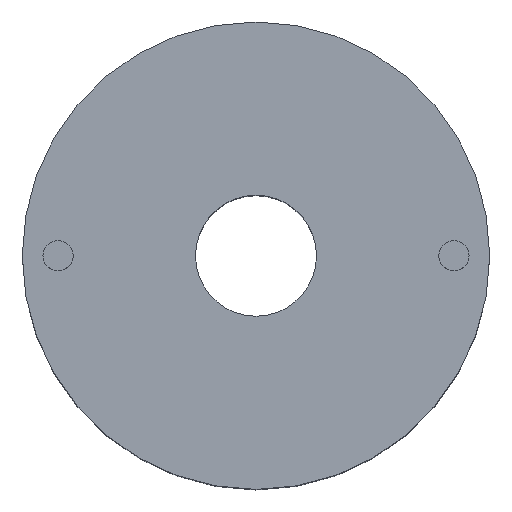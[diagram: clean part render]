
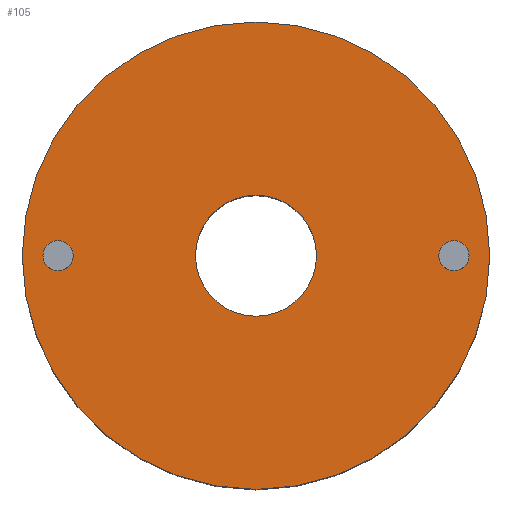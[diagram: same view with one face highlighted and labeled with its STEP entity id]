
A CAD part, top view. The second image highlights one B-rep face of the part: STEP entity #105.
In plain terms, the highlighted planar face has unit normal (0, 0, 1).
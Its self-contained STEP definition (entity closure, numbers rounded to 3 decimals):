
#21 = EDGE_CURVE('',#22,#22,#24,.T.);
#22 = VERTEX_POINT('',#23);
#23 = CARTESIAN_POINT('',(8.5,0.,-9.7));
#24 = SURFACE_CURVE('',#25,(#30,#42),.PCURVE_S1.);
#25 = CIRCLE('',#26,8.5);
#26 = AXIS2_PLACEMENT_3D('',#27,#28,#29);
#27 = CARTESIAN_POINT('',(0.,0.,-9.7));
#28 = DIRECTION('',(0.,0.,1.));
#29 = DIRECTION('',(1.,0.,-0.));
#30 = PCURVE('',#31,#36);
#31 = CYLINDRICAL_SURFACE('',#32,8.5);
#32 = AXIS2_PLACEMENT_3D('',#33,#34,#35);
#33 = CARTESIAN_POINT('',(0.,0.,-21.7));
#34 = DIRECTION('',(0.,0.,1.));
#35 = DIRECTION('',(1.,0.,-0.));
#36 = DEFINITIONAL_REPRESENTATION('',(#37),#41);
#37 = LINE('',#38,#39);
#38 = CARTESIAN_POINT('',(0.,12.));
#39 = VECTOR('',#40,1.);
#40 = DIRECTION('',(1.,0.));
#41 = ( GEOMETRIC_REPRESENTATION_CONTEXT(2) 
PARAMETRIC_REPRESENTATION_CONTEXT() REPRESENTATION_CONTEXT('2D SPACE',''
  ) );
#42 = PCURVE('',#43,#48);
#43 = PLANE('',#44);
#44 = AXIS2_PLACEMENT_3D('',#45,#46,#47);
#45 = CARTESIAN_POINT('',(0.,0.,-9.7));
#46 = DIRECTION('',(0.,0.,1.));
#47 = DIRECTION('',(1.,0.,-0.));
#48 = DEFINITIONAL_REPRESENTATION('',(#49),#53);
#49 = CIRCLE('',#50,8.5);
#50 = AXIS2_PLACEMENT_2D('',#51,#52);
#51 = CARTESIAN_POINT('',(0.,0.));
#52 = DIRECTION('',(1.,0.));
#53 = ( GEOMETRIC_REPRESENTATION_CONTEXT(2) 
PARAMETRIC_REPRESENTATION_CONTEXT() REPRESENTATION_CONTEXT('2D SPACE',''
  ) );
#105 = ADVANCED_FACE('',(#106,#109,#140,#171),#43,.T.);
#106 = FACE_BOUND('',#107,.T.);
#107 = EDGE_LOOP('',(#108));
#108 = ORIENTED_EDGE('',*,*,#21,.T.);
#109 = FACE_BOUND('',#110,.T.);
#110 = EDGE_LOOP('',(#111));
#111 = ORIENTED_EDGE('',*,*,#112,.F.);
#112 = EDGE_CURVE('',#113,#113,#115,.T.);
#113 = VERTEX_POINT('',#114);
#114 = CARTESIAN_POINT('',(-6.65,0.,-9.7));
#115 = SURFACE_CURVE('',#116,(#121,#128),.PCURVE_S1.);
#116 = CIRCLE('',#117,0.55);
#117 = AXIS2_PLACEMENT_3D('',#118,#119,#120);
#118 = CARTESIAN_POINT('',(-7.2,0.,-9.7));
#119 = DIRECTION('',(0.,0.,1.));
#120 = DIRECTION('',(1.,0.,-0.));
#121 = PCURVE('',#43,#122);
#122 = DEFINITIONAL_REPRESENTATION('',(#123),#127);
#123 = CIRCLE('',#124,0.55);
#124 = AXIS2_PLACEMENT_2D('',#125,#126);
#125 = CARTESIAN_POINT('',(-7.2,0.));
#126 = DIRECTION('',(1.,0.));
#127 = ( GEOMETRIC_REPRESENTATION_CONTEXT(2) 
PARAMETRIC_REPRESENTATION_CONTEXT() REPRESENTATION_CONTEXT('2D SPACE',''
  ) );
#128 = PCURVE('',#129,#134);
#129 = CYLINDRICAL_SURFACE('',#130,0.55);
#130 = AXIS2_PLACEMENT_3D('',#131,#132,#133);
#131 = CARTESIAN_POINT('',(-7.2,0.,-9.7));
#132 = DIRECTION('',(0.,0.,1.));
#133 = DIRECTION('',(1.,0.,-0.));
#134 = DEFINITIONAL_REPRESENTATION('',(#135),#139);
#135 = LINE('',#136,#137);
#136 = CARTESIAN_POINT('',(0.,0.));
#137 = VECTOR('',#138,1.);
#138 = DIRECTION('',(1.,0.));
#139 = ( GEOMETRIC_REPRESENTATION_CONTEXT(2) 
PARAMETRIC_REPRESENTATION_CONTEXT() REPRESENTATION_CONTEXT('2D SPACE',''
  ) );
#140 = FACE_BOUND('',#141,.T.);
#141 = EDGE_LOOP('',(#142));
#142 = ORIENTED_EDGE('',*,*,#143,.F.);
#143 = EDGE_CURVE('',#144,#144,#146,.T.);
#144 = VERTEX_POINT('',#145);
#145 = CARTESIAN_POINT('',(2.2,0.,-9.7));
#146 = SURFACE_CURVE('',#147,(#152,#159),.PCURVE_S1.);
#147 = CIRCLE('',#148,2.2);
#148 = AXIS2_PLACEMENT_3D('',#149,#150,#151);
#149 = CARTESIAN_POINT('',(0.,0.,-9.7));
#150 = DIRECTION('',(0.,0.,1.));
#151 = DIRECTION('',(1.,0.,-0.));
#152 = PCURVE('',#43,#153);
#153 = DEFINITIONAL_REPRESENTATION('',(#154),#158);
#154 = CIRCLE('',#155,2.2);
#155 = AXIS2_PLACEMENT_2D('',#156,#157);
#156 = CARTESIAN_POINT('',(0.,0.));
#157 = DIRECTION('',(1.,0.));
#158 = ( GEOMETRIC_REPRESENTATION_CONTEXT(2) 
PARAMETRIC_REPRESENTATION_CONTEXT() REPRESENTATION_CONTEXT('2D SPACE',''
  ) );
#159 = PCURVE('',#160,#165);
#160 = CYLINDRICAL_SURFACE('',#161,2.2);
#161 = AXIS2_PLACEMENT_3D('',#162,#163,#164);
#162 = CARTESIAN_POINT('',(0.,0.,-21.71));
#163 = DIRECTION('',(0.,0.,1.));
#164 = DIRECTION('',(1.,0.,-0.));
#165 = DEFINITIONAL_REPRESENTATION('',(#166),#170);
#166 = LINE('',#167,#168);
#167 = CARTESIAN_POINT('',(0.,12.01));
#168 = VECTOR('',#169,1.);
#169 = DIRECTION('',(1.,0.));
#170 = ( GEOMETRIC_REPRESENTATION_CONTEXT(2) 
PARAMETRIC_REPRESENTATION_CONTEXT() REPRESENTATION_CONTEXT('2D SPACE',''
  ) );
#171 = FACE_BOUND('',#172,.T.);
#172 = EDGE_LOOP('',(#173));
#173 = ORIENTED_EDGE('',*,*,#174,.F.);
#174 = EDGE_CURVE('',#175,#175,#177,.T.);
#175 = VERTEX_POINT('',#176);
#176 = CARTESIAN_POINT('',(7.75,0.,-9.7));
#177 = SURFACE_CURVE('',#178,(#183,#190),.PCURVE_S1.);
#178 = CIRCLE('',#179,0.55);
#179 = AXIS2_PLACEMENT_3D('',#180,#181,#182);
#180 = CARTESIAN_POINT('',(7.2,0.,-9.7));
#181 = DIRECTION('',(0.,0.,1.));
#182 = DIRECTION('',(1.,0.,-0.));
#183 = PCURVE('',#43,#184);
#184 = DEFINITIONAL_REPRESENTATION('',(#185),#189);
#185 = CIRCLE('',#186,0.55);
#186 = AXIS2_PLACEMENT_2D('',#187,#188);
#187 = CARTESIAN_POINT('',(7.2,0.));
#188 = DIRECTION('',(1.,0.));
#189 = ( GEOMETRIC_REPRESENTATION_CONTEXT(2) 
PARAMETRIC_REPRESENTATION_CONTEXT() REPRESENTATION_CONTEXT('2D SPACE',''
  ) );
#190 = PCURVE('',#191,#196);
#191 = CYLINDRICAL_SURFACE('',#192,0.55);
#192 = AXIS2_PLACEMENT_3D('',#193,#194,#195);
#193 = CARTESIAN_POINT('',(7.2,0.,-9.7));
#194 = DIRECTION('',(0.,0.,1.));
#195 = DIRECTION('',(1.,0.,-0.));
#196 = DEFINITIONAL_REPRESENTATION('',(#197),#201);
#197 = LINE('',#198,#199);
#198 = CARTESIAN_POINT('',(0.,0.));
#199 = VECTOR('',#200,1.);
#200 = DIRECTION('',(1.,0.));
#201 = ( GEOMETRIC_REPRESENTATION_CONTEXT(2) 
PARAMETRIC_REPRESENTATION_CONTEXT() REPRESENTATION_CONTEXT('2D SPACE',''
  ) );
